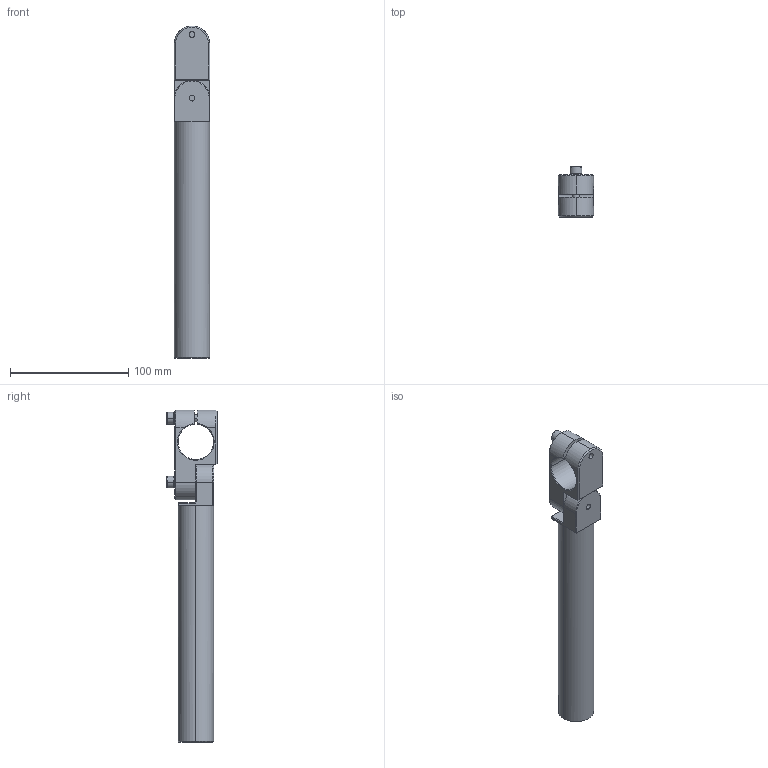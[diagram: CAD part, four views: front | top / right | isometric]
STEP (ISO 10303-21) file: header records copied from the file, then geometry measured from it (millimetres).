
FILE_DESCRIPTION (( 'STEP AP214' ), '1' );
FILE_NAME ('SEA-3030L200T.STEP', '2023-02-01T00:45:41', ( 'Windows User' ), ( 'P R C' ), 'SwSTEP 2.0', 'SolidWorks 2019', '' );
FILE_SCHEMA (( 'AUTOMOTIVE_DESIGN' ));
Length unit declared in the file: millimetre
Products named in the file (5): PTC-M6L20; SEA-3030L200.1; SEA-3030L200T; PTS-M6; SEA-3030L200.2
Assembly tree (6 placements, depth 2):
  SEA-3030L200T
    SEA-3030L200.1
    SEA-3030L200.2
    PTC-M6L20  x2
    PTS-M6  x2
Bounding box: 30 x 42.45 x 281 mm (x, y, z)
Volume: 125315.7 mm3; surface area: 50465.4 mm2
Topology: 6 solids, 6 shells, 459 faces, 1275 edges, 829 vertices
Faces by surface type: plane 387, cylinder 37, cone 31, bspline 4
Entity records: 9433 total; most frequent: CARTESIAN_POINT 2126, DIRECTION 1529, ORIENTED_EDGE 1482, EDGE_CURVE 741, AXIS2_PLACEMENT_3D 526, LINE 477, VECTOR 477, VERTEX_POINT 475
